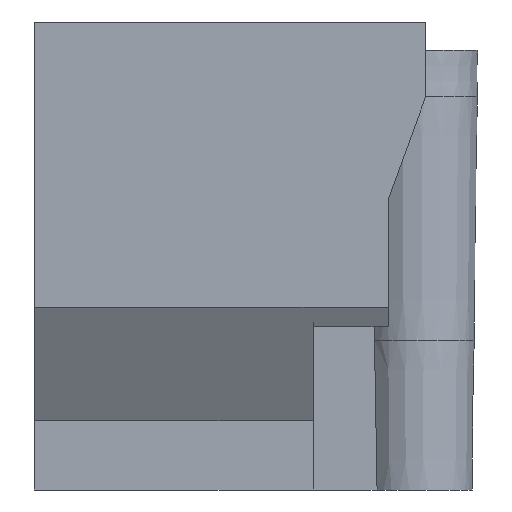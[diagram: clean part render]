
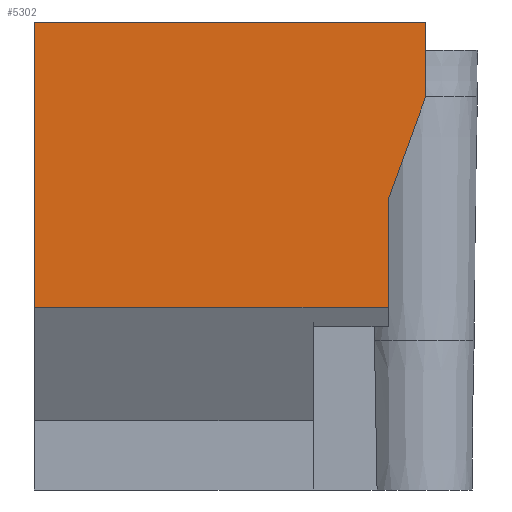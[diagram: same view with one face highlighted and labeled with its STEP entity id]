
A CAD part, front view. The second image highlights one B-rep face of the part: STEP entity #5302.
In plain terms, the highlighted planar face has unit normal (0, -1, 0).
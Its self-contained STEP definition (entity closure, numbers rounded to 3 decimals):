
#32 = PLANE('',#33);
#33 = AXIS2_PLACEMENT_3D('',#34,#35,#36);
#34 = CARTESIAN_POINT('',(-15.,-190.,-0.1));
#35 = DIRECTION('',(1.,0.,-0.));
#36 = DIRECTION('',(0.,0.,1.));
#107 = VERTEX_POINT('',#108);
#108 = CARTESIAN_POINT('',(-15.,-179.2,25.));
#121 = PLANE('',#122);
#122 = AXIS2_PLACEMENT_3D('',#123,#124,#125);
#123 = CARTESIAN_POINT('',(0.,-3.046,25.));
#124 = DIRECTION('',(0.,0.,1.));
#125 = DIRECTION('',(1.,0.,-0.));
#132 = EDGE_CURVE('',#133,#107,#135,.T.);
#133 = VERTEX_POINT('',#134);
#134 = CARTESIAN_POINT('',(-15.,-179.2,9.762));
#135 = SURFACE_CURVE('',#136,(#140,#146),.PCURVE_S1.);
#136 = LINE('',#137,#138);
#137 = CARTESIAN_POINT('',(-15.,-179.2,4.831));
#138 = VECTOR('',#139,1.);
#139 = DIRECTION('',(0.,-0.,1.));
#140 = PCURVE('',#32,#141);
#141 = DEFINITIONAL_REPRESENTATION('',(#142),#145);
#142 = B_SPLINE_CURVE_WITH_KNOTS('',1,(#143,#144),.UNSPECIFIED.,.F.,.F.,
  (2,2),(4.931,20.169),.PIECEWISE_BEZIER_KNOTS.);
#143 = CARTESIAN_POINT('',(9.862,-10.8));
#144 = CARTESIAN_POINT('',(25.1,-10.8));
#145 = ( GEOMETRIC_REPRESENTATION_CONTEXT(2) 
PARAMETRIC_REPRESENTATION_CONTEXT() REPRESENTATION_CONTEXT('2D SPACE',''
  ) );
#146 = PCURVE('',#147,#152);
#147 = PLANE('',#148);
#148 = AXIS2_PLACEMENT_3D('',#149,#150,#151);
#149 = CARTESIAN_POINT('',(-195.2,-179.2,9.762));
#150 = DIRECTION('',(0.,1.,0.));
#151 = DIRECTION('',(1.,0.,0.));
#152 = DEFINITIONAL_REPRESENTATION('',(#153),#156);
#153 = B_SPLINE_CURVE_WITH_KNOTS('',1,(#154,#155),.UNSPECIFIED.,.F.,.F.,
  (2,2),(4.931,20.169),.PIECEWISE_BEZIER_KNOTS.);
#154 = CARTESIAN_POINT('',(180.2,0.));
#155 = CARTESIAN_POINT('',(180.2,-15.238));
#156 = ( GEOMETRIC_REPRESENTATION_CONTEXT(2) 
PARAMETRIC_REPRESENTATION_CONTEXT() REPRESENTATION_CONTEXT('2D SPACE',''
  ) );
#173 = PLANE('',#174);
#174 = AXIS2_PLACEMENT_3D('',#175,#176,#177);
#175 = CARTESIAN_POINT('',(0.,-177.45,6.731));
#176 = DIRECTION('',(0.,-0.866,-0.5));
#177 = DIRECTION('',(1.,0.,0.));
#5207 = EDGE_CURVE('',#133,#5208,#5210,.T.);
#5208 = VERTEX_POINT('',#5209);
#5209 = CARTESIAN_POINT('',(3.9,-179.2,9.762));
#5210 = SURFACE_CURVE('',#5211,(#5215,#5222),.PCURVE_S1.);
#5211 = LINE('',#5212,#5213);
#5212 = CARTESIAN_POINT('',(-195.2,-179.2,9.762));
#5213 = VECTOR('',#5214,1.);
#5214 = DIRECTION('',(1.,0.,0.));
#5215 = PCURVE('',#173,#5216);
#5216 = DEFINITIONAL_REPRESENTATION('',(#5217),#5221);
#5217 = LINE('',#5218,#5219);
#5218 = CARTESIAN_POINT('',(-195.2,3.5));
#5219 = VECTOR('',#5220,1.);
#5220 = DIRECTION('',(1.,0.));
#5221 = ( GEOMETRIC_REPRESENTATION_CONTEXT(2) 
PARAMETRIC_REPRESENTATION_CONTEXT() REPRESENTATION_CONTEXT('2D SPACE',''
  ) );
#5222 = PCURVE('',#147,#5223);
#5223 = DEFINITIONAL_REPRESENTATION('',(#5224),#5228);
#5224 = LINE('',#5225,#5226);
#5225 = CARTESIAN_POINT('',(0.,0.));
#5226 = VECTOR('',#5227,1.);
#5227 = DIRECTION('',(1.,0.));
#5228 = ( GEOMETRIC_REPRESENTATION_CONTEXT(2) 
PARAMETRIC_REPRESENTATION_CONTEXT() REPRESENTATION_CONTEXT('2D SPACE',''
  ) );
#5292 = PLANE('',#5293);
#5293 = AXIS2_PLACEMENT_3D('',#5294,#5295,#5296);
#5294 = CARTESIAN_POINT('',(3.9,-179.4,8.));
#5295 = DIRECTION('',(1.,0.,0.));
#5296 = DIRECTION('',(-0.,1.,0.));
#5302 = ADVANCED_FACE('',(#5303),#147,.F.);
#5303 = FACE_BOUND('',#5304,.F.);
#5304 = EDGE_LOOP('',(#5305,#5306,#5329,#5355,#5381,#5400));
#5305 = ORIENTED_EDGE('',*,*,#132,.T.);
#5306 = ORIENTED_EDGE('',*,*,#5307,.T.);
#5307 = EDGE_CURVE('',#107,#5308,#5310,.T.);
#5308 = VERTEX_POINT('',#5309);
#5309 = CARTESIAN_POINT('',(5.9,-179.2,25.));
#5310 = SURFACE_CURVE('',#5311,(#5315,#5322),.PCURVE_S1.);
#5311 = LINE('',#5312,#5313);
#5312 = CARTESIAN_POINT('',(-195.2,-179.2,25.));
#5313 = VECTOR('',#5314,1.);
#5314 = DIRECTION('',(1.,0.,0.));
#5315 = PCURVE('',#147,#5316);
#5316 = DEFINITIONAL_REPRESENTATION('',(#5317),#5321);
#5317 = LINE('',#5318,#5319);
#5318 = CARTESIAN_POINT('',(0.,-15.238));
#5319 = VECTOR('',#5320,1.);
#5320 = DIRECTION('',(1.,0.));
#5321 = ( GEOMETRIC_REPRESENTATION_CONTEXT(2) 
PARAMETRIC_REPRESENTATION_CONTEXT() REPRESENTATION_CONTEXT('2D SPACE',''
  ) );
#5322 = PCURVE('',#121,#5323);
#5323 = DEFINITIONAL_REPRESENTATION('',(#5324),#5328);
#5324 = LINE('',#5325,#5326);
#5325 = CARTESIAN_POINT('',(-195.2,-176.154));
#5326 = VECTOR('',#5327,1.);
#5327 = DIRECTION('',(1.,0.));
#5328 = ( GEOMETRIC_REPRESENTATION_CONTEXT(2) 
PARAMETRIC_REPRESENTATION_CONTEXT() REPRESENTATION_CONTEXT('2D SPACE',''
  ) );
#5329 = ORIENTED_EDGE('',*,*,#5330,.T.);
#5330 = EDGE_CURVE('',#5308,#5331,#5333,.T.);
#5331 = VERTEX_POINT('',#5332);
#5332 = CARTESIAN_POINT('',(5.9,-179.2,21.));
#5333 = SURFACE_CURVE('',#5334,(#5338,#5344),.PCURVE_S1.);
#5334 = LINE('',#5335,#5336);
#5335 = CARTESIAN_POINT('',(5.9,-179.2,23.881));
#5336 = VECTOR('',#5337,1.);
#5337 = DIRECTION('',(0.,0.,-1.));
#5338 = PCURVE('',#147,#5339);
#5339 = DEFINITIONAL_REPRESENTATION('',(#5340),#5343);
#5340 = B_SPLINE_CURVE_WITH_KNOTS('',1,(#5341,#5342),.UNSPECIFIED.,.F.,
  .F.,(2,2),(-1.119,2.881),.PIECEWISE_BEZIER_KNOTS.);
#5341 = CARTESIAN_POINT('',(201.1,-15.238));
#5342 = CARTESIAN_POINT('',(201.1,-11.238));
#5343 = ( GEOMETRIC_REPRESENTATION_CONTEXT(2) 
PARAMETRIC_REPRESENTATION_CONTEXT() REPRESENTATION_CONTEXT('2D SPACE',''
  ) );
#5344 = PCURVE('',#5345,#5350);
#5345 = PLANE('',#5346);
#5346 = AXIS2_PLACEMENT_3D('',#5347,#5348,#5349);
#5347 = CARTESIAN_POINT('',(5.9,-179.4,38.));
#5348 = DIRECTION('',(1.,0.,0.));
#5349 = DIRECTION('',(-0.,1.,0.));
#5350 = DEFINITIONAL_REPRESENTATION('',(#5351),#5354);
#5351 = B_SPLINE_CURVE_WITH_KNOTS('',1,(#5352,#5353),.UNSPECIFIED.,.F.,
  .F.,(2,2),(-1.119,2.881),.PIECEWISE_BEZIER_KNOTS.);
#5352 = CARTESIAN_POINT('',(0.2,-13.));
#5353 = CARTESIAN_POINT('',(0.2,-17.));
#5354 = ( GEOMETRIC_REPRESENTATION_CONTEXT(2) 
PARAMETRIC_REPRESENTATION_CONTEXT() REPRESENTATION_CONTEXT('2D SPACE',''
  ) );
#5355 = ORIENTED_EDGE('',*,*,#5356,.T.);
#5356 = EDGE_CURVE('',#5331,#5357,#5359,.T.);
#5357 = VERTEX_POINT('',#5358);
#5358 = CARTESIAN_POINT('',(3.9,-179.2,15.5));
#5359 = SURFACE_CURVE('',#5360,(#5364,#5370),.PCURVE_S1.);
#5360 = LINE('',#5361,#5362);
#5361 = CARTESIAN_POINT('',(-7.648,-179.2,-16.256));
#5362 = VECTOR('',#5363,1.);
#5363 = DIRECTION('',(-0.342,0.,-0.94));
#5364 = PCURVE('',#147,#5365);
#5365 = DEFINITIONAL_REPRESENTATION('',(#5366),#5369);
#5366 = B_SPLINE_CURVE_WITH_KNOTS('',1,(#5367,#5368),.UNSPECIFIED.,.F.,
  .F.,(2,2),(-39.643,-33.791),.PIECEWISE_BEZIER_KNOTS.);
#5367 = CARTESIAN_POINT('',(201.1,-11.238));
#5368 = CARTESIAN_POINT('',(199.1,-5.738));
#5369 = ( GEOMETRIC_REPRESENTATION_CONTEXT(2) 
PARAMETRIC_REPRESENTATION_CONTEXT() REPRESENTATION_CONTEXT('2D SPACE',''
  ) );
#5370 = PCURVE('',#5371,#5376);
#5371 = PLANE('',#5372);
#5372 = AXIS2_PLACEMENT_3D('',#5373,#5374,#5375);
#5373 = CARTESIAN_POINT('',(5.9,-179.4,21.));
#5374 = DIRECTION('',(0.94,0.,-0.342));
#5375 = DIRECTION('',(0.,1.,0.));
#5376 = DEFINITIONAL_REPRESENTATION('',(#5377),#5380);
#5377 = B_SPLINE_CURVE_WITH_KNOTS('',1,(#5378,#5379),.UNSPECIFIED.,.F.,
  .F.,(2,2),(-39.643,-33.791),.PIECEWISE_BEZIER_KNOTS.);
#5378 = CARTESIAN_POINT('',(0.2,0.));
#5379 = CARTESIAN_POINT('',(0.2,-5.852));
#5380 = ( GEOMETRIC_REPRESENTATION_CONTEXT(2) 
PARAMETRIC_REPRESENTATION_CONTEXT() REPRESENTATION_CONTEXT('2D SPACE',''
  ) );
#5381 = ORIENTED_EDGE('',*,*,#5382,.T.);
#5382 = EDGE_CURVE('',#5357,#5208,#5383,.T.);
#5383 = SURFACE_CURVE('',#5384,(#5388,#5394),.PCURVE_S1.);
#5384 = LINE('',#5385,#5386);
#5385 = CARTESIAN_POINT('',(3.9,-179.2,8.881));
#5386 = VECTOR('',#5387,1.);
#5387 = DIRECTION('',(0.,0.,-1.));
#5388 = PCURVE('',#147,#5389);
#5389 = DEFINITIONAL_REPRESENTATION('',(#5390),#5393);
#5390 = B_SPLINE_CURVE_WITH_KNOTS('',1,(#5391,#5392),.UNSPECIFIED.,.F.,
  .F.,(2,2),(-6.619,-0.881),.PIECEWISE_BEZIER_KNOTS.);
#5391 = CARTESIAN_POINT('',(199.1,-5.738));
#5392 = CARTESIAN_POINT('',(199.1,0.));
#5393 = ( GEOMETRIC_REPRESENTATION_CONTEXT(2) 
PARAMETRIC_REPRESENTATION_CONTEXT() REPRESENTATION_CONTEXT('2D SPACE',''
  ) );
#5394 = PCURVE('',#5292,#5395);
#5395 = DEFINITIONAL_REPRESENTATION('',(#5396),#5399);
#5396 = B_SPLINE_CURVE_WITH_KNOTS('',1,(#5397,#5398),.UNSPECIFIED.,.F.,
  .F.,(2,2),(-6.619,-0.881),.PIECEWISE_BEZIER_KNOTS.);
#5397 = CARTESIAN_POINT('',(0.2,7.5));
#5398 = CARTESIAN_POINT('',(0.2,1.762));
#5399 = ( GEOMETRIC_REPRESENTATION_CONTEXT(2) 
PARAMETRIC_REPRESENTATION_CONTEXT() REPRESENTATION_CONTEXT('2D SPACE',''
  ) );
#5400 = ORIENTED_EDGE('',*,*,#5207,.F.);
